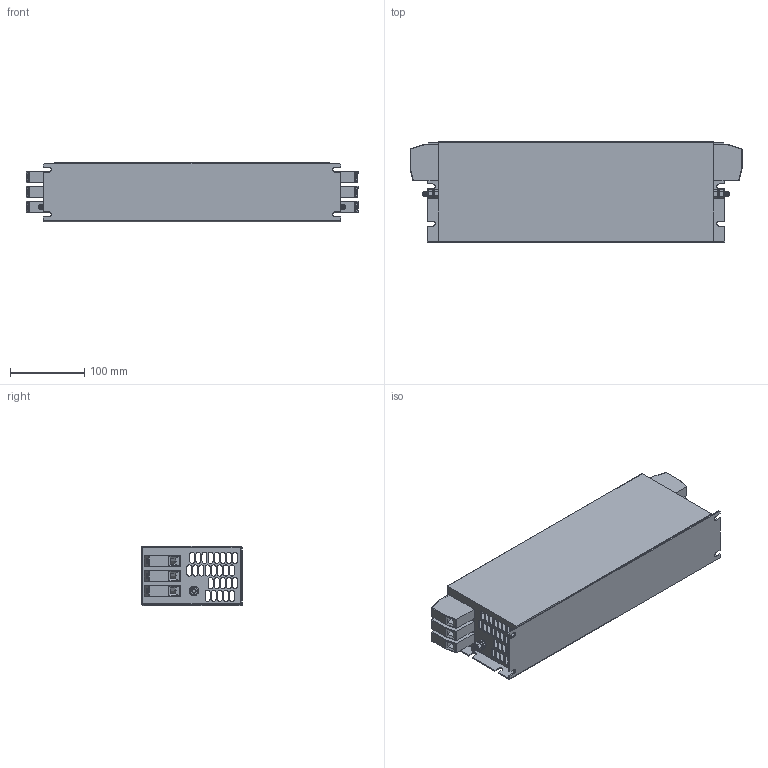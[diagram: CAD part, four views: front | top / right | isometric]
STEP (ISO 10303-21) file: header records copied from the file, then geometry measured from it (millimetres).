
FILE_DESCRIPTION (( 'STEP AP203' ), '1' );
FILE_NAME ('NF-KC-DAR2-63-3.STEP', '2025-09-25T14:32:16', ( '' ), ( '' ), 'SwSTEP 2.0', 'SolidWorks 2017', '' );
FILE_SCHEMA (( 'CONFIG_CONTROL_DESIGN' ));
Length unit declared in the file: millimetre
Products named in the file (7): hex screw_am (dont use)_B18.6.7M - M6 x 1.0 x 16 Indented HHMS --16S; NF-KC-DAR2-63-3; flat washer narrow_am_B18.22M - Plain washer, 6 mm, narrow; M6x16 Earth post; hex nut style 1_am_B18.2.4.1M - Hex nut, Style 1,  M6 x 1 --D-N; HDFK-25
Assembly tree (13 placements, depth 3):
  NF-KC-DAR2-63-3
    NF-KC-DAR2-63-3
    HDFK-25  x6
    M6x16 Earth post  x2
      flat washer narrow_am_B18.22M - Plain washer, 6 mm, narrow
      hex nut style 1_am_B18.2.4.1M - Hex nut, Style 1,  M6 x 1 --D-N
      hex screw_am (dont use)_B18.6.7M - M6 x 1.0 x 16 Indented HHMS --16S
Bounding box: 446.01 x 135 x 80 mm (x, y, z)
Volume: 452403.6 mm3; surface area: 459194.6 mm2
Topology: 17 solids, 17 shells, 1391 faces, 3665 edges, 2346 vertices
Faces by surface type: plane 752, cylinder 457, cone 180, sphere 2
Entity records: 29795 total; most frequent: CARTESIAN_POINT 5113, DIRECTION 5046, ORIENTED_EDGE 4888, EDGE_CURVE 2444, AXIS2_PLACEMENT_3D 1755, VERTEX_POINT 1598, VECTOR 1536, LINE 1536
